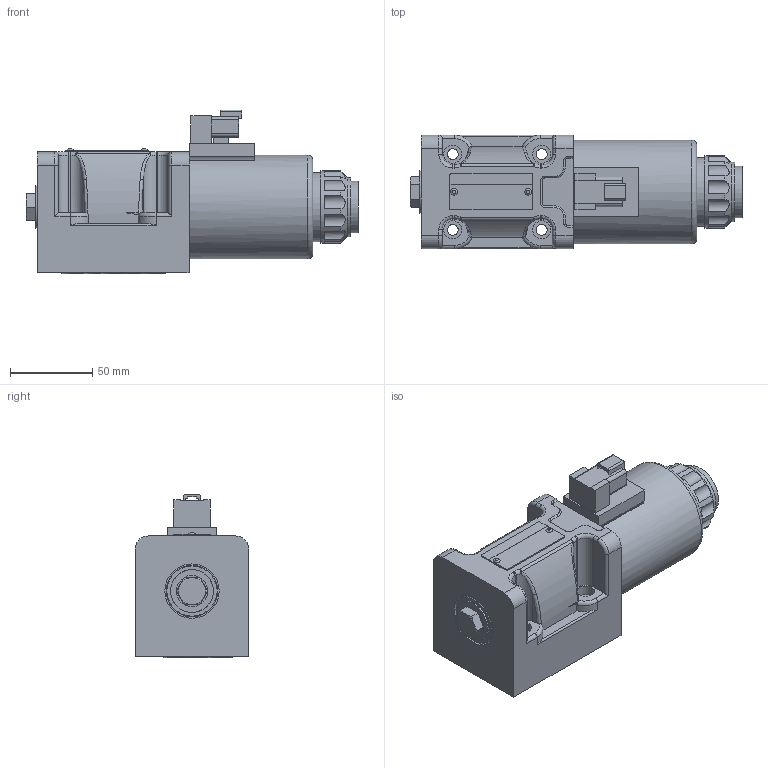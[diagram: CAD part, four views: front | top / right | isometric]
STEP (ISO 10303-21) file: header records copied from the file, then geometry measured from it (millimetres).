
FILE_DESCRIPTION(/* description */ (''),/* implementation_level */ '2;1');
FILE_NAME(/* name */ '4WE10-5X直流防水电磁阀（二位阀电磁铁在A端）.prt.stp',/* time_stamp */ '2022-03-30T19:34:23+08:00',/* author */ (''),/* organization */ (''),/* preprocessor_version */ 'ST-DEVELOPER v16.7',/* originating_system */ 'SIEMENS PLM Software NX 12.0',/* authorisation */ '');
FILE_SCHEMA (('AUTOMOTIVE_DESIGN { 1 0 10303 214 3 1 1 1 }'));
Length unit declared in the file: millimetre
Products named in the file (1): 4WE10-5X直流防水电磁阀（二位阀电磁铁在A
端）
Bounding box: 201.7 x 69 x 99.3 mm (x, y, z)
Volume: 291572.8 mm3; surface area: 110680.6 mm2
Topology: 16 solids, 17 shells, 499 faces, 1181 edges, 764 vertices
Faces by surface type: plane 226, cylinder 136, cone 63, bspline 45, torus 24, sphere 4, extrusion 1
Full cylindrical faces by diameter (mm): 1.8 x6, 2.5 x2, 3 x2, 5.95 x1, 6 x2, 6.5 x1, 6.6 x4, 7 x1, 8 x1, 11 x9, 11.6 x1, 12 x1, 15.7 x5, 16.5 x2, 17 x2, 21.4 x1, 21.5 x1, 22 x1, 23 x2, 26 x1, 28 x1, 31 x1, 31.2 x1, 31.4 x2, 31.5 x3, 33 x2, 36 x1, 42 x1, 44 x1, 53.5 x1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
Entity records: 21258 total; most frequent: CARTESIAN_POINT 9669, DIRECTION 2098, ORIENTED_EDGE 2000, EDGE_CURVE 1000, AXIS2_PLACEMENT_3D 829, VERTEX_POINT 721, EDGE_LOOP 691, ADVANCED_FACE 498
